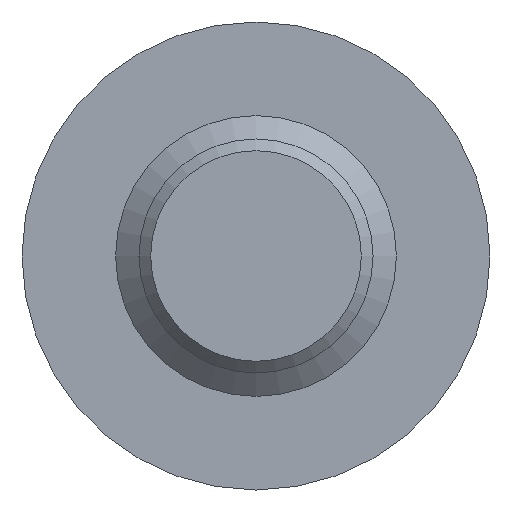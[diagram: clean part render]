
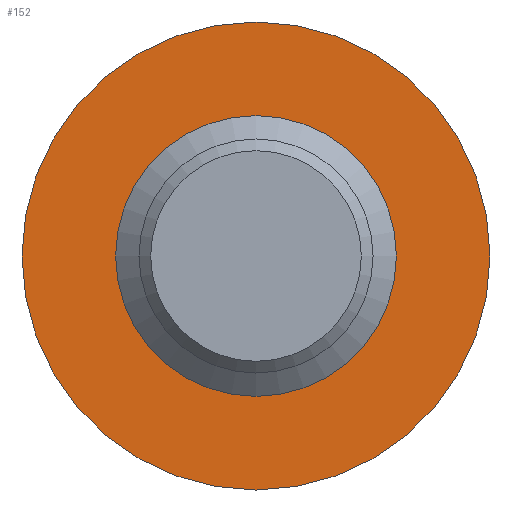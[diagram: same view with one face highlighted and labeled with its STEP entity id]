
A CAD part, front view. The second image highlights one B-rep face of the part: STEP entity #152.
In plain terms, the highlighted planar face has unit normal (0, -1, 0).
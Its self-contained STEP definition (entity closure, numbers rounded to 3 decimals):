
#15=FACE_BOUND('',#57,.T.);
#21=PLANE('',#195);
#45=FACE_OUTER_BOUND('',#56,.T.);
#56=EDGE_LOOP('',(#129));
#57=EDGE_LOOP('',(#130));
#67=CIRCLE('',#186,10.);
#72=CIRCLE('',#196,5.25);
#79=VERTEX_POINT('',#270);
#84=VERTEX_POINT('',#288);
#93=EDGE_CURVE('',#79,#79,#67,.T.);
#100=EDGE_CURVE('',#84,#84,#72,.T.);
#129=ORIENTED_EDGE('',*,*,#93,.F.);
#130=ORIENTED_EDGE('',*,*,#100,.F.);
#152=ADVANCED_FACE('',(#45,#15),#21,.F.);
#186=AXIS2_PLACEMENT_3D('',#272,#219,#220);
#195=AXIS2_PLACEMENT_3D('',#287,#239,#240);
#196=AXIS2_PLACEMENT_3D('',#289,#241,#242);
#219=DIRECTION('center_axis',(0.,1.,0.));
#220=DIRECTION('ref_axis',(1.,0.,0.));
#239=DIRECTION('center_axis',(0.,1.,0.));
#240=DIRECTION('ref_axis',(0.,0.,1.));
#241=DIRECTION('center_axis',(0.,-1.,0.));
#242=DIRECTION('ref_axis',(1.,0.,0.));
#270=CARTESIAN_POINT('',(-10.,55.7,0.));
#272=CARTESIAN_POINT('Origin',(0.,55.7,0.));
#287=CARTESIAN_POINT('Origin',(0.,55.7,0.));
#288=CARTESIAN_POINT('',(-5.25,55.7,0.));
#289=CARTESIAN_POINT('Origin',(0.,55.7,0.));
